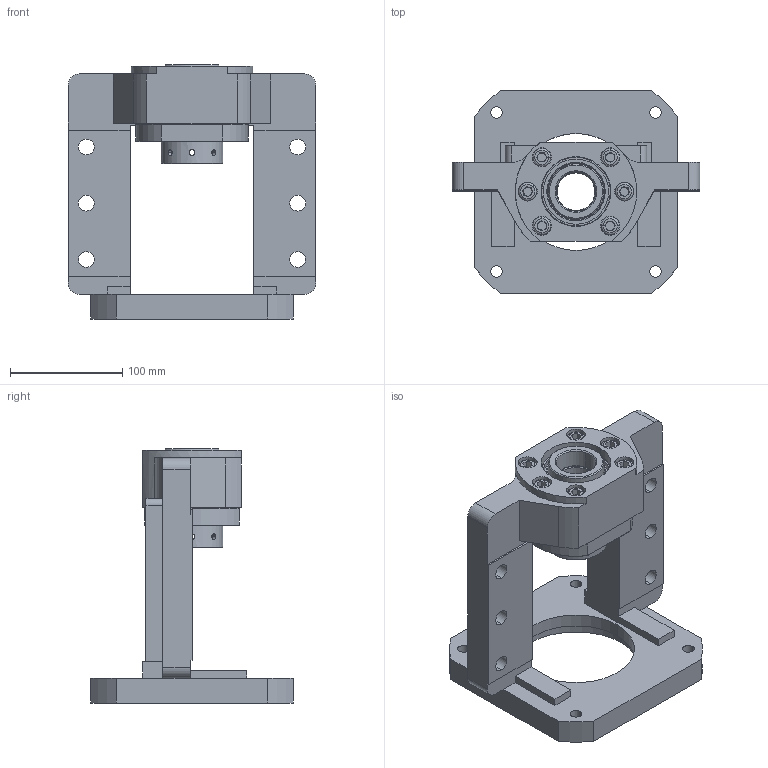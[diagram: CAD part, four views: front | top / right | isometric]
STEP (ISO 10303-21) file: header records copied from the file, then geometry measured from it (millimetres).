
FILE_DESCRIPTION (( 'STEP AP203' ), '1' );
FILE_NAME ('MBCS35L-H.STEP', '2024-10-18T06:41:57', ( '' ), ( '' ), 'SwSTEP 2.0', 'SolidWorks 2018', '' );
FILE_SCHEMA (( 'CONFIG_CONTROL_DESIGN' ));
Length unit declared in the file: millimetre
Products named in the file (1): MBCS35L-H
Bounding box: 220 x 180 x 226 mm (x, y, z)
Surface area: 228761.8 mm2 (no closed solid volume)
Topology: 0 solids, 22 shells, 340 faces, 949 edges, 622 vertices
Faces by surface type: cylinder 129, plane 117, cone 64, torus 20, bspline 10
Entity records: 24374 total; most frequent: CARTESIAN_POINT 15634, DIRECTION 1863, ORIENTED_EDGE 1665, EDGE_CURVE 941, AXIS2_PLACEMENT_3D 715, VERTEX_POINT 622, LINE 433, VECTOR 433
